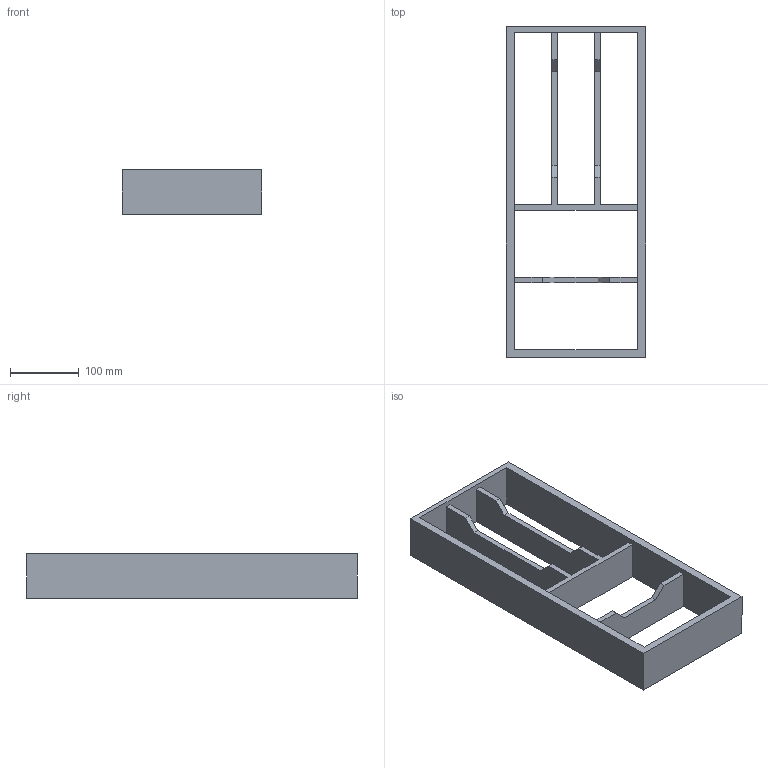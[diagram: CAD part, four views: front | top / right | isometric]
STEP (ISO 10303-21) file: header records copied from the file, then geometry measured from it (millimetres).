
FILE_DESCRIPTION (( 'STEP AP214' ), '1' );
FILE_NAME ('Vario Besteck fix NL500_B300_19mm_Buche.step', '2010-11-08T07:33:14', ( 'grass' ), ( '' ), 'SwSTEP 2.0', 'SolidWorks 2010', '' );
FILE_SCHEMA (( 'AUTOMOTIVE_DESIGN' ));
Length unit declared in the file: millimetre
Products named in the file (1): Vario Besteck fix NL500_B300_19mm_Buche
Bounding box: 202 x 479 x 65 mm (x, y, z)
Volume: 1304774 mm3; surface area: 296038 mm2
Topology: 1 solids, 1 shells, 34 faces, 108 edges, 72 vertices
Faces by surface type: plane 34
Entity records: 1226 total; most frequent: ORIENTED_EDGE 216, CARTESIAN_POINT 215, DIRECTION 178, VECTOR 108, LINE 108, EDGE_CURVE 108, VERTEX_POINT 72, EDGE_LOOP 40
